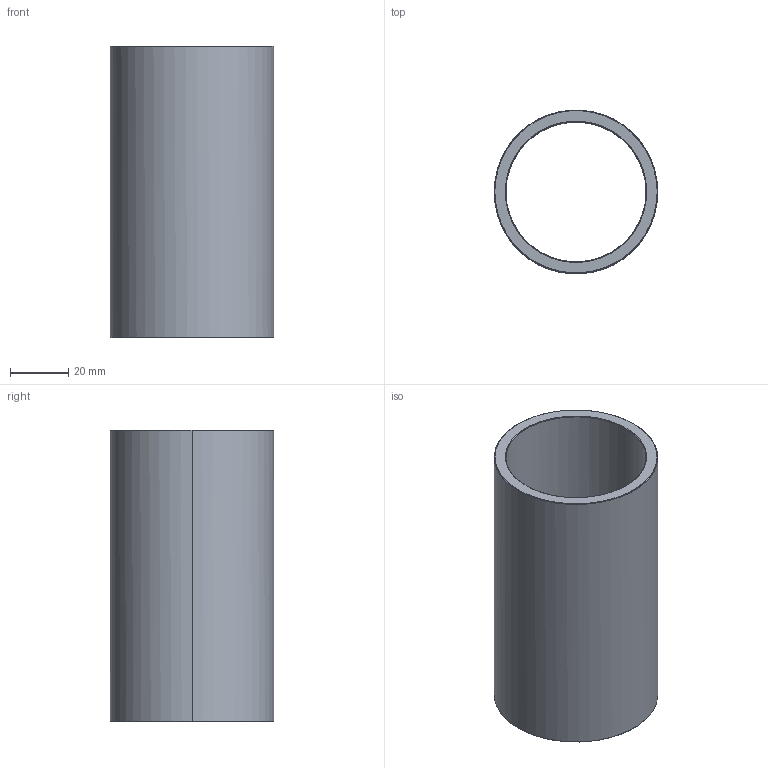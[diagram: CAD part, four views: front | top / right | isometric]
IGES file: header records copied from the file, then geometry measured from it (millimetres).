
Start section: Write IGES format                                    datakit 2008 (c)
Global section: file name: Unknown; native system: DATAKIT Converter; preprocessor: Unknown; author: Unknown; organization: Unknown; date: 950613.180003; units: millimetre
Bounding box: 56 x 55.9 x 100 mm (x, y, z)
Surface area: 33902.9 mm2 (no closed solid volume)
Topology: 0 solids, 0 shells, 14 faces, 56 edges, 56 vertices
Faces by surface type: revolution 12, bspline 2
